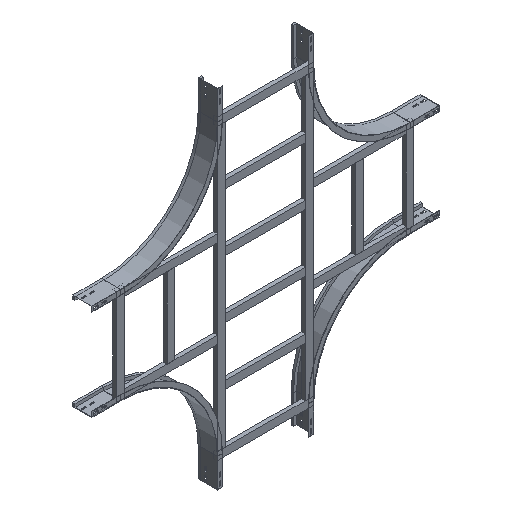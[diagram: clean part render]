
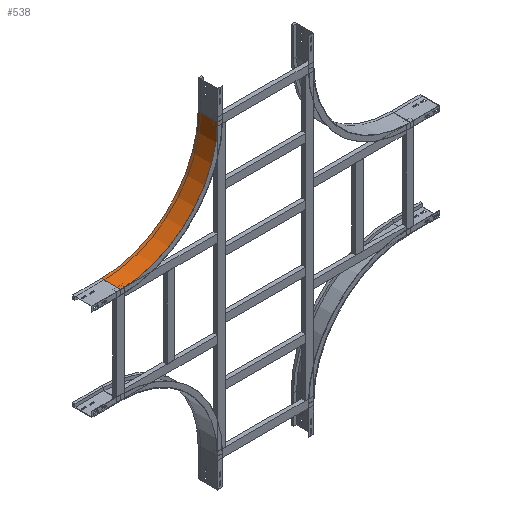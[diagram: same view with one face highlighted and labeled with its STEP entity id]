
A CAD part, isometric view. The second image highlights one B-rep face of the part: STEP entity #538.
In plain terms, the highlighted cylindrical face has radius 500 mm (diameter 1000 mm), a partial arc.
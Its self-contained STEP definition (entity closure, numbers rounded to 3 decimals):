
#74 = CARTESIAN_POINT ( 'NONE',  ( 500., 0., -150. ) ) ;
#189 = VERTEX_POINT ( 'NONE', #605 ) ;
#313 = CIRCLE ( 'NONE', #2484, 500. ) ;
#356 = ORIENTED_EDGE ( 'NONE', *, *, #2299, .T. ) ;
#538 = ADVANCED_FACE ( 'NONE', ( #2124 ), #1945, .F. ) ;
#583 = VERTEX_POINT ( 'NONE', #1503 ) ;
#603 = DIRECTION ( 'NONE',  ( 0., 1., 0. ) ) ;
#605 = CARTESIAN_POINT ( 'NONE',  ( 500., 0., -650. ) ) ;
#662 = CARTESIAN_POINT ( 'NONE',  ( 0., 0., -150. ) ) ;
#690 = EDGE_CURVE ( 'NONE', #2647, #189, #313, .T. ) ;
#778 = EDGE_LOOP ( 'NONE', ( #2004, #1045, #972, #356 ) ) ;
#838 = LINE ( 'NONE', #1100, #2495 ) ;
#891 = CARTESIAN_POINT ( 'NONE',  ( 500., 100., -650. ) ) ;
#972 = ORIENTED_EDGE ( 'NONE', *, *, #690, .T. ) ;
#1027 = DIRECTION ( 'NONE',  ( 0., 0., -1. ) ) ;
#1043 = DIRECTION ( 'NONE',  ( 0., -1., 0. ) ) ;
#1045 = ORIENTED_EDGE ( 'NONE', *, *, #2142, .F. ) ;
#1100 = CARTESIAN_POINT ( 'NONE',  ( 0., 0., -150. ) ) ;
#1135 = LINE ( 'NONE', #2703, #1701 ) ;
#1212 = AXIS2_PLACEMENT_3D ( 'NONE', #1530, #2428, #1733 ) ;
#1290 = DIRECTION ( 'NONE',  ( -1., 0., 0. ) ) ;
#1503 = CARTESIAN_POINT ( 'NONE',  ( 0., 100., -150. ) ) ;
#1530 = CARTESIAN_POINT ( 'NONE',  ( 500., 100., -150. ) ) ;
#1589 = VERTEX_POINT ( 'NONE', #891 ) ;
#1701 = VECTOR ( 'NONE', #2015, 1000. ) ;
#1733 = DIRECTION ( 'NONE',  ( -1., 0., 0. ) ) ;
#1932 = AXIS2_PLACEMENT_3D ( 'NONE', #74, #1043, #1027 ) ;
#1945 = CYLINDRICAL_SURFACE ( 'NONE', #1932, 500. ) ;
#1972 = DIRECTION ( 'NONE',  ( 0., -1., 0. ) ) ;
#2004 = ORIENTED_EDGE ( 'NONE', *, *, #2515, .F. ) ;
#2015 = DIRECTION ( 'NONE',  ( 0., 1., 0. ) ) ;
#2124 = FACE_OUTER_BOUND ( 'NONE', #778, .T. ) ;
#2142 = EDGE_CURVE ( 'NONE', #2647, #583, #838, .T. ) ;
#2242 = CARTESIAN_POINT ( 'NONE',  ( 500., 0., -150. ) ) ;
#2299 = EDGE_CURVE ( 'NONE', #189, #1589, #1135, .T. ) ;
#2428 = DIRECTION ( 'NONE',  ( 0., -1., 0. ) ) ;
#2484 = AXIS2_PLACEMENT_3D ( 'NONE', #2242, #1972, #1290 ) ;
#2495 = VECTOR ( 'NONE', #603, 1000. ) ;
#2515 = EDGE_CURVE ( 'NONE', #583, #1589, #2811, .T. ) ;
#2647 = VERTEX_POINT ( 'NONE', #662 ) ;
#2703 = CARTESIAN_POINT ( 'NONE',  ( 500., 0., -650. ) ) ;
#2811 = CIRCLE ( 'NONE', #1212, 500. ) ;
